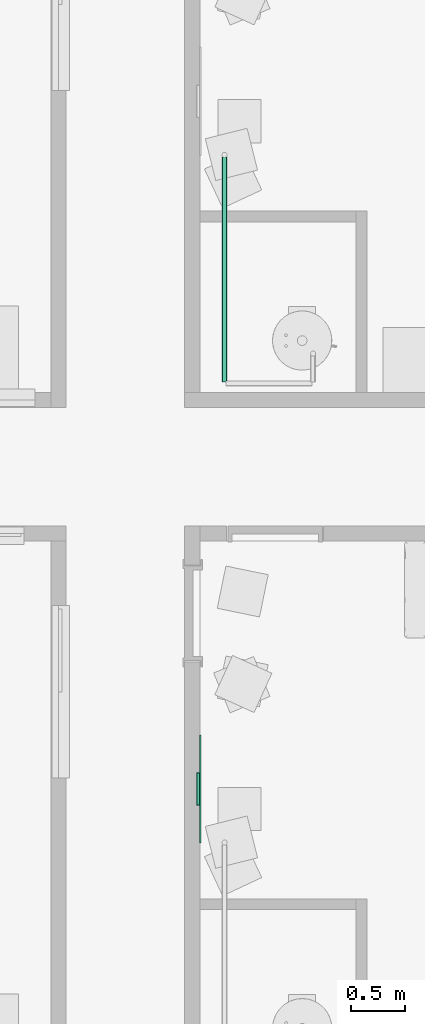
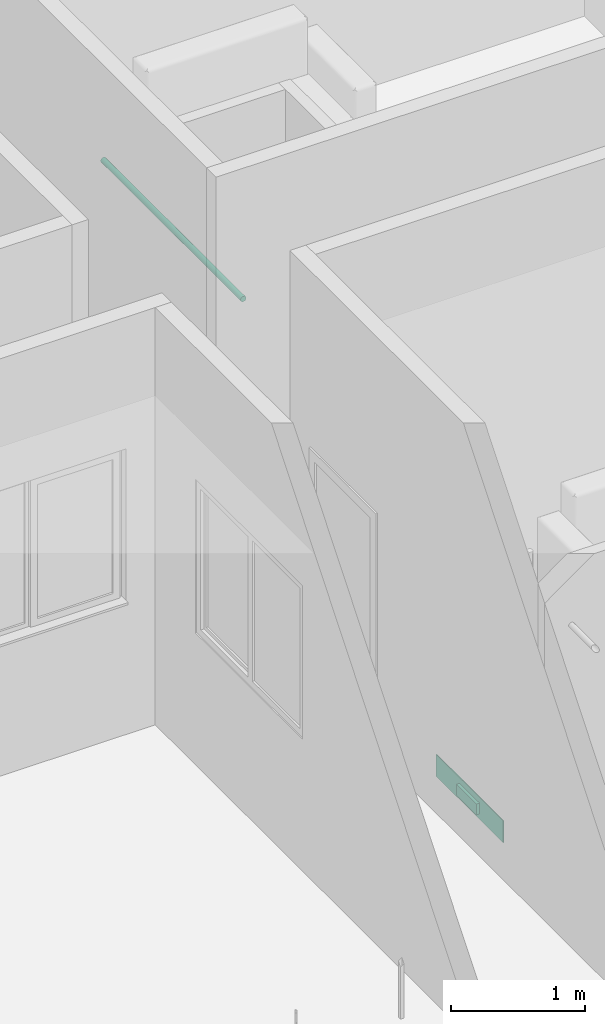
# One storey, part 26 of 72: 1 air terminal, 1 pipe segment.
"""IFC4 building model written with IfcOpenShell, lengths in centimetres."""

import ifcopenshell
import ifcopenshell.guid

model = None  # the IFC model being written
_history = None  # IfcOwnerHistory: only IFC2X3 demands one
_inside = {}  # id of a spatial element -> (the spatial element, [elements in it])
_under = {}  # id of a project, library or spatial element -> (it, [spatial elements below it])
_declared = {}  # id of a project -> (the project, [libraries it declares])
_typed = {}  # id of a type object -> (the type object, [elements of that type])
_made_of = {}  # id of a material, layer set ... -> (it, [elements and type objects made of it])


def new_model(schema):
    """Start an empty IFC model of exactly this schema.

    Asked for "IFC4X3", IfcOpenShell would pick the latest addendum, in which some entities
    have other attributes; the version numbers below select the first issue.
    IFC2X3 requires an IfcOwnerHistory on every rooted entity: one is made here for all.
    """
    global model, _history
    if schema == "IFC4X3":
        model = ifcopenshell.file(schema_version=(4, 3, 0, 0))
    else:
        model = ifcopenshell.file(schema=schema)
    _inside.clear()
    _under.clear()
    _declared.clear()
    _typed.clear()
    _made_of.clear()
    _history = None
    if model.schema == "IFC2X3":
        org = make("IfcOrganization", Name="unknown")
        user = make(
            "IfcPersonAndOrganization",
            ThePerson=make("IfcPerson", FamilyName="unknown"),
            TheOrganization=org,
        )
        app = make(
            "IfcApplication",
            ApplicationDeveloper=org,
            Version="unknown",
            ApplicationFullName="unknown",
            ApplicationIdentifier="unknown",
        )
        _history = make(
            "IfcOwnerHistory",
            OwningUser=user,
            OwningApplication=app,
            ChangeAction="ADDED",
            CreationDate=0,
        )
    return model


def make(cls, **values):
    """One entity of the class cls with the attributes given. An attribute that is None is left unset."""
    return model.create_entity(
        cls, **{name: value for name, value in values.items() if value is not None}
    )


def entity(cls, *values):
    """Any entity or typed value of the class cls, its attributes in the order of the schema. None: left unset."""
    e = model.create_entity(cls)
    for i, value in enumerate(values):
        if value is not None:
            e[i] = value
    return e


def rooted(cls, **values):
    """An entity with a GlobalId (a new one), such as an element, a storey or a relation."""
    return make(cls, GlobalId=ifcopenshell.guid.new(), OwnerHistory=_history, **values)


def si_unit(unit_type, name, prefix=None):
    """IfcSIUnit, for example si_unit("LENGTHUNIT", "METRE", prefix="MILLI")."""
    return make("IfcSIUnit", UnitType=unit_type, Prefix=prefix, Name=name)


def converted_unit(unit_type, name, factor, base, dimensions=None, offset=None):
    """IfcConversionBasedUnit, such as the inch: factor (a typed value) times the base unit."""
    return make(
        "IfcConversionBasedUnit"
        if offset is None
        else "IfcConversionBasedUnitWithOffset",
        ConversionOffset=offset,
        Dimensions=None
        if dimensions is None
        else entity("IfcDimensionalExponents", *dimensions),
        UnitType=unit_type,
        Name=name,
        ConversionFactor=make(
            "IfcMeasureWithUnit", ValueComponent=factor, UnitComponent=base
        ),
    )


def derived_unit(unit_type, elements):
    """IfcDerivedUnit: a product of units, each with its exponent."""
    return make(
        "IfcDerivedUnit",
        Elements=[
            make("IfcDerivedUnitElement", Unit=unit, Exponent=power)
            for unit, power in elements
        ],
        UnitType=unit_type,
    )


def assignment(units):
    """IfcUnitAssignment: the units of a project."""
    return None if units is None else make("IfcUnitAssignment", Units=units)


def point(xyz):
    """IfcCartesianPoint."""
    return None if xyz is None else make("IfcCartesianPoint", Coordinates=xyz)


def direction(xyz):
    """IfcDirection."""
    return None if xyz is None else make("IfcDirection", DirectionRatios=xyz)


def frame(location, z_axis=None, x_axis=None):
    """IfcAxis2Placement3D, a coordinate frame: its origin and axes. An axis left out is left unset."""
    return make(
        "IfcAxis2Placement3D",
        Location=point(location),
        Axis=direction(z_axis),
        RefDirection=direction(x_axis),
    )


def origin():
    """The frame at (0, 0, 0) with its axes left unset."""
    return frame((0.0, 0.0, 0.0))


def place(relative_to, where):
    """IfcLocalPlacement: puts the frame where relative to a parent placement (None: the world)."""
    return make(
        "IfcLocalPlacement", PlacementRelTo=relative_to, RelativePlacement=where
    )


def context(
    kind, dimensions, precision=None, world=None, true_north=None, identifier=None
):
    """IfcGeometricRepresentationContext, for example the 3D "Model" context."""
    return make(
        "IfcGeometricRepresentationContext",
        ContextIdentifier=identifier,
        ContextType=kind,
        CoordinateSpaceDimension=dimensions,
        Precision=precision,
        WorldCoordinateSystem=world,
        TrueNorth=true_north,
    )


def subcontext(parent, identifier, kind, view, scale=None):
    """IfcGeometricRepresentationSubContext, for example "Body" below "Model"."""
    return make(
        "IfcGeometricRepresentationSubContext",
        ContextIdentifier=identifier,
        ContextType=kind,
        ParentContext=parent,
        TargetScale=scale,
        TargetView=view,
    )


def project(units=None, contexts=None):
    """IfcProject with its units and contexts."""
    return rooted(
        "IfcProject",
        Name="project",
        RepresentationContexts=contexts,
        UnitsInContext=assignment(units),
    )


def spatial(cls, under=None, at=None, **own):
    """A site, building, storey or space (cls), placed at a placement, below another one or the project."""
    s = rooted(cls, ObjectPlacement=at, **own)
    if under is not None:
        _under.setdefault(under.id(), (under, []))[1].append(s)
    return s


def point_list(points):
    """IfcCartesianPointList2D or 3D."""
    cls = (
        "IfcCartesianPointList2D" if len(points[0]) == 2 else "IfcCartesianPointList3D"
    )
    return make(cls, CoordList=points)


def arc(*indices):
    """IfcArcIndex: an arc through three numbered points of an indexed curve."""
    return model.create_entity("IfcArcIndex", indices)


def indexed_curve(points, segments=None, self_intersect=None):
    """IfcIndexedPolyCurve: lines and arcs through numbered points (the first is 1)."""
    return make(
        "IfcIndexedPolyCurve",
        Points=point_list(points),
        Segments=segments,
        SelfIntersect=self_intersect,
    )


def outline(outer, holes=None, kind="AREA"):
    """IfcArbitraryClosedProfileDef: a profile drawn as a closed curve; with holes, ...WithVoids."""
    if holes is None:
        return make("IfcArbitraryClosedProfileDef", ProfileType=kind, OuterCurve=outer)
    return make(
        "IfcArbitraryProfileDefWithVoids",
        ProfileType=kind,
        OuterCurve=outer,
        InnerCurves=holes,
    )


def extrude(swept, where, along, depth):
    """IfcExtrudedAreaSolid: the profile swept, set in the frame where, extruded along a direction by depth."""
    return make(
        "IfcExtrudedAreaSolid",
        SweptArea=swept,
        Position=where,
        ExtrudedDirection=direction(along),
        Depth=depth,
    )


def shape(context_of_items, identifier, shape_type, items):
    """IfcShapeRepresentation: the items that make up one representation, for example the "Body"."""
    return make(
        "IfcShapeRepresentation",
        ContextOfItems=context_of_items,
        RepresentationIdentifier=identifier,
        RepresentationType=shape_type,
        Items=items,
    )


def source(mapping_origin, context_of_items, identifier, shape_type, items):
    """IfcRepresentationMap: a shape defined once, which mapped items show again and again."""
    return make(
        "IfcRepresentationMap",
        MappingOrigin=mapping_origin,
        MappedRepresentation=shape(context_of_items, identifier, shape_type, items),
    )


def transform(
    local_origin,
    x_axis=None,
    y_axis=None,
    z_axis=None,
    scale=None,
    scale2=None,
    scale3=None,
    uniform=True,
):
    """IfcCartesianTransformationOperator3D, or its non-uniform kind. x_axis, y_axis, z_axis: its Axis1, 2, 3."""
    if uniform:
        return make(
            "IfcCartesianTransformationOperator3D",
            Axis1=direction(x_axis),
            Axis2=direction(y_axis),
            LocalOrigin=point(local_origin),
            Scale=scale,
            Axis3=direction(z_axis),
        )
    return make(
        "IfcCartesianTransformationOperator3DnonUniform",
        Axis1=direction(x_axis),
        Axis2=direction(y_axis),
        LocalOrigin=point(local_origin),
        Scale=scale,
        Axis3=direction(z_axis),
        Scale2=scale2,
        Scale3=scale3,
    )


def mapped(mapping_source, mapping_target):
    """IfcMappedItem: shows the shape of a source again, moved by a transform."""
    return make(
        "IfcMappedItem", MappingSource=mapping_source, MappingTarget=mapping_target
    )


def material(Name=None, Category=None):
    """IfcMaterial."""
    return make("IfcMaterial", Name=Name, Category=Category)


def constituent(of_material, Name=None, Category=None, fraction=None):
    """IfcMaterialConstituent: one of the materials an element consists of."""
    return make(
        "IfcMaterialConstituent",
        Name=Name,
        Material=of_material,
        Fraction=fraction,
        Category=Category,
    )


def constituent_set(constituents=None, Name=None):
    """IfcMaterialConstituentSet."""
    return make(
        "IfcMaterialConstituentSet", Name=Name, MaterialConstituents=constituents
    )


def made_of(thing, what):
    """Note that an element or type object is made of a material, layer set ...; save() writes the relation."""
    if what is not None:
        _made_of.setdefault(what.id(), (what, []))[1].append(thing)
    return thing


def type_object(cls, material=None, **own):
    """A type object (cls), such as IfcWallType, which elements share."""
    return made_of(rooted(cls, **own), material)


def type_shapes(of_type, sources):
    """Give a type object the sources (RepresentationMaps) that its elements show as mapped items."""
    of_type.RepresentationMaps = sources


def element(
    cls,
    number,
    at=None,
    inside=None,
    cuts=None,
    type_object=None,
    material=None,
    context=None,
    identifier="Body",
    shape_type=None,
    held_by="IfcProductDefinitionShape",
    body=None,
    shapes=None,
    **own,
):
    """One element of the class cls, such as IfcWall. Its Tag is "e" and its number.

    at: its placement. inside: the storey or other place that contains it. cuts: it is an
    opening in that element (IfcRelVoidsElement). A single representation is given by context,
    identifier, shape_type and body (its items); several are given by shapes. held_by: the class
    of the entity that holds the representations. save() writes the other relations.
    """
    e = rooted(cls, Tag="e%d" % number, ObjectPlacement=at, **own)
    if body is not None:
        shapes = [shape(context, identifier, shape_type, body)]
    if shapes is not None:
        e.Representation = make(held_by, Representations=shapes)
    if inside is not None:
        _inside.setdefault(inside.id(), (inside, []))[1].append(e)
    if cuts is not None:
        rooted(
            "IfcRelVoidsElement", RelatingBuildingElement=cuts, RelatedOpeningElement=e
        )
    if type_object is not None:
        _typed.setdefault(type_object.id(), (type_object, []))[1].append(e)
    return made_of(e, material)


def aggregate(whole, parts):
    """IfcRelAggregates: a whole, such as a stair, and the parts it consists of."""
    return rooted("IfcRelAggregates", RelatingObject=whole, RelatedObjects=parts)


def save(model, path):
    """Write the relations noted so far, then the file.

    IfcRelAggregates (storeys below a building ...), IfcRelContainedInSpatialStructure (elements
    in a storey), IfcRelDefinesByType, IfcRelAssociatesMaterial and IfcRelDeclares: one each for
    every whole, place, type object, material and project.
    """
    for whole, parts in _under.values():
        aggregate(whole, parts)
    for where, things in _inside.values():
        rooted(
            "IfcRelContainedInSpatialStructure",
            RelatedElements=things,
            RelatingStructure=where,
        )
    for kind, things in _typed.values():
        rooted("IfcRelDefinesByType", RelatedObjects=things, RelatingType=kind)
    for what, things in _made_of.values():
        rooted("IfcRelAssociatesMaterial", RelatedObjects=things, RelatingMaterial=what)
    for by, libraries in _declared.values():
        rooted("IfcRelDeclares", RelatingContext=by, RelatedDefinitions=libraries)
    model.write(path)


model = new_model("IFC4")

# Units and contexts
model_context = context("Model", 3, precision=0.001, world=origin(), true_north=direction((6.123233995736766e-17, 1.0)))
body_context = subcontext(model_context, "Body", "Model", "MODEL_VIEW")
ifc_project = project(units=[si_unit("LENGTHUNIT", "METRE", prefix="CENTI"), si_unit("AREAUNIT", "SQUARE_METRE"), si_unit("VOLUMEUNIT", "CUBIC_METRE"), derived_unit("THERMALTRANSMITTANCEUNIT", [(si_unit("MASSUNIT", "GRAM", prefix="KILO"), 1), (si_unit("THERMODYNAMICTEMPERATUREUNIT", "KELVIN"), -1), (si_unit("TIMEUNIT", "SECOND"), -3)]), converted_unit("PLANEANGLEUNIT", "DEGREE", entity("IfcPlaneAngleMeasure", 0.017453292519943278), si_unit("PLANEANGLEUNIT", "RADIAN"), dimensions=[0, 0, 0, 0, 0, 0, 0]), derived_unit("MASSDENSITYUNIT", [(si_unit("MASSUNIT", "GRAM", prefix="KILO"), 1), (si_unit("LENGTHUNIT", "METRE"), -3)]), derived_unit("VAPORPERMEABILITYUNIT", [(si_unit("LENGTHUNIT", "METRE"), -1), (si_unit("TIMEUNIT", "SECOND"), 1)]), derived_unit("USERDEFINED", [(si_unit("MASSUNIT", "GRAM", prefix="KILO"), 1), (si_unit("TIMEUNIT", "SECOND"), -3), (si_unit("LENGTHUNIT", "METRE"), 3), (si_unit("ELECTRICCURRENTUNIT", "AMPERE"), -2)]), derived_unit("SPECIFICHEATCAPACITYUNIT", [(si_unit("THERMODYNAMICTEMPERATUREUNIT", "KELVIN"), -1), (si_unit("LENGTHUNIT", "METRE"), 2), (si_unit("TIMEUNIT", "SECOND"), -2)]), derived_unit("THERMALCONDUCTANCEUNIT", [(si_unit("MASSUNIT", "GRAM", prefix="KILO"), 1), (si_unit("THERMODYNAMICTEMPERATUREUNIT", "KELVIN"), -1), (si_unit("TIMEUNIT", "SECOND"), -3), (si_unit("LENGTHUNIT", "METRE"), 1)]), si_unit("PRESSUREUNIT", "PASCAL"), derived_unit("MODULUSOFELASTICITYUNIT", [(si_unit("MASSUNIT", "GRAM", prefix="KILO"), 1), (si_unit("LENGTHUNIT", "METRE"), -1), (si_unit("TIMEUNIT", "SECOND"), -2)]), derived_unit("THERMALEXPANSIONCOEFFICIENTUNIT", [(si_unit("THERMODYNAMICTEMPERATUREUNIT", "KELVIN"), -1)])], contexts=[model_context])

# Site, building, storey, space
site_placement = place(None, origin())
site = spatial("IfcSite", under=ifc_project, at=site_placement, Name="Default", CompositionType="ELEMENT")
building_placement = place(site_placement, origin())
building = spatial("IfcBuilding", under=site, at=building_placement, Name="IDS Escape Game Building", CompositionType="ELEMENT")
storey_placement = place(building_placement, frame((0.0, 0.0, 800.0)))
storey = spatial("IfcBuildingStorey", under=building, at=storey_placement, Name="02_Second Floor", CompositionType="ELEMENT", Elevation=800.0)
space_placement = place(storey_placement, origin())
space = spatial("IfcSpace", under=storey, at=space_placement, Name="82", CompositionType="ELEMENT", PredefinedType="NOTDEFINED")

# Air terminal
ifc_material_1 = material(Name="TB_LVC_referentievlak_00_gen_BERSnl", Category="BE Default")
ifc_constituent_1 = constituent(ifc_material_1, Name="TB_LVC_referentievlak_00_gen_BERSnl", Category="BE Default", fraction=0.00014157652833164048)
ifc_material_2 = material(Name="ARC_FME.h2_staal_00_gen_BERSnl", Category="h - metaal")
ifc_constituent_2 = constituent(ifc_material_2, Name="ARC_FME.h2_staal_00_gen_BERSnl", Category="h - metaal", fraction=0.9998584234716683)
ifc_constituent_set_1 = constituent_set(constituents=[ifc_constituent_1, ifc_constituent_2])
ifc_constituent_3 = constituent(ifc_material_1, Name="BE Referentievlak", Category="BE Default", fraction=0.00014157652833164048)
ifc_constituent_4 = constituent(ifc_material_2, Name="Terminals", Category="h - metaal", fraction=0.9998584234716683)
ifc_constituent_set_2 = constituent_set(constituents=[ifc_constituent_3, ifc_constituent_4])
air_terminal_type = type_object("IfcAirTerminalType", Name="TB_57_AIR_FB_aanzuigrooster - 1 rechthoekige aansluiting - calculated flow_gen_BERSnl:Air Terminal - Exhaust", PredefinedType="GRILLE", material=ifc_constituent_set_2)
shared_shape = source(origin(), body_context, "Body", "SweptSolid", [
    extrude(outline(indexed_curve([(-0.5, -2.0290176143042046e-15), (6.8507733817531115e-16, -0.5000000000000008), (0.5, 2.0290176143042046e-15), (-5.361679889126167e-16, 0.49999999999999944)], segments=[arc(1, 2, 3), arc(3, 4, 1)], self_intersect=False)), frame((0.0, 0.0, 0.0), z_axis=(1.7453292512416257e-05, 0.0, 1.0), x_axis=(0.0, 1.0, 0.0)), (0.0, 0.0, 1.0), 0.09999999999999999),
    extrude(outline(indexed_curve([(-14.900000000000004, -4.9), (14.900000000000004, -4.9), (14.900000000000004, 4.9), (-14.900000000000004, 4.9), (-14.900000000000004, -4.9)], self_intersect=False)), frame((-4.886921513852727e-05, 0.0, -2.7999999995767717)), (0.0, 0.0, 1.0), 2.7999999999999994),
    extrude(outline(indexed_curve([(-50.0, -10.0), (50.0, -10.0), (50.0, 10.0), (-50.0, 10.0), (-50.0, -10.0)], self_intersect=False)), frame((0.0, 0.0, 0.0), z_axis=(0.0, 0.0, 1.0), x_axis=(-1.0, 0.0, 0.0)), (0.0, 0.0, 1.0), 0.6999999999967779),
])
type_shapes(air_terminal_type, [shared_shape])
air_terminal_placement = place(space_placement, frame((2959.0, 921.0, 24.0), z_axis=(1.0, 0.0, 0.0), x_axis=(0.0, 1.0, 0.0)))
element("IfcAirTerminal", 1, at=air_terminal_placement, inside=space, type_object=air_terminal_type, material=ifc_constituent_set_1, Name="TB_57_AIR_FB_aanzuigrooster - 1 rechthoekige aansluiting - calculated flow_gen_BERSnl:Air Terminal - Exhaust", ObjectType="TB_57_AIR_FB_aanzuigrooster - 1 rechthoekige aansluiting - calculated flow_gen_BERSnl:Air Terminal - Exhaust", PredefinedType="GRILLE", context=body_context, shape_type="MappedRepresentation", body=[
    mapped(shared_shape, transform((0.0, 0.0, 0.0), scale=1.0)),
])

# Pipe segment
pipe_segment_type = type_object("IfcPipeSegmentType", Name="Pipe Types:Piping Aluminum", PredefinedType="NOTDEFINED")
pipe_segment_placement = place(storey_placement, origin())
element("IfcPipeSegment", 2, at=pipe_segment_placement, inside=storey, type_object=pipe_segment_type, Name="Pipe Types:Piping Aluminum", ObjectType="Pipe Types:Piping Aluminum", PredefinedType="NOTDEFINED", context=body_context, shape_type="SweptSolid", body=[
    extrude(outline(indexed_curve([(2.412999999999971, 0.0), (1.7062486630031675, 1.7062486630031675), (0.0, 2.412999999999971), (-1.7062486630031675, 1.7062486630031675), (-2.412999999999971, 0.0), (-1.7062486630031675, -1.7062486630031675), (0.0, -2.412999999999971), (1.7062486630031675, -1.7062486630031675)], segments=[arc(1, 2, 3), arc(3, 4, 5), arc(5, 6, 7), arc(7, 8, 1)], self_intersect=False)), frame((2982.046716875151, 1298.3648279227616, 242.0), z_axis=(0.0, 1.0, 0.0), x_axis=(1.0, 0.0, 0.0)), (0.0, 0.0, 1.0), 208.80000000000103),
])

save(model, "model.ifc")
